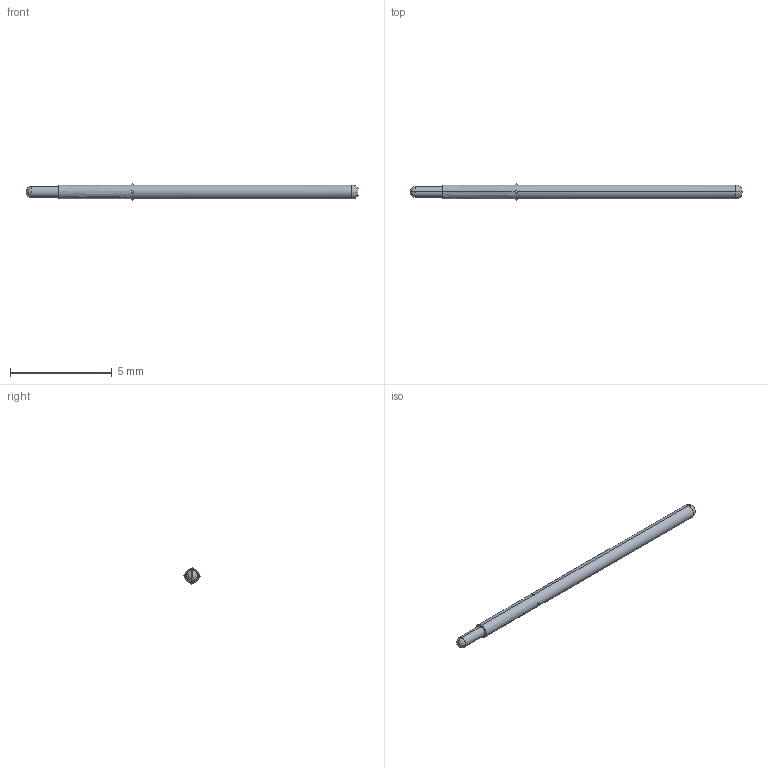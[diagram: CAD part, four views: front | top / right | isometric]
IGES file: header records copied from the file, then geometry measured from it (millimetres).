
Start section: SolidWorks IGES file using analytic representation for surfaces
Global section: file name: O:\PYLON\IGES FILES\P2662A\P2662A-1R1S REC'D.IGS; native system: SolidWorks 2015; preprocessor: SolidWorks 2015; author: kgolden; date: 171019.090730; units: inch
Bounding box: 16.3 x 0.79 x 0.79 mm (x, y, z)
Surface area: 37.2 mm2 (no closed solid volume)
Topology: 0 solids, 0 shells, 21 faces, 192 edges, 176 vertices
Faces by surface type: revolution 14, bspline 7
